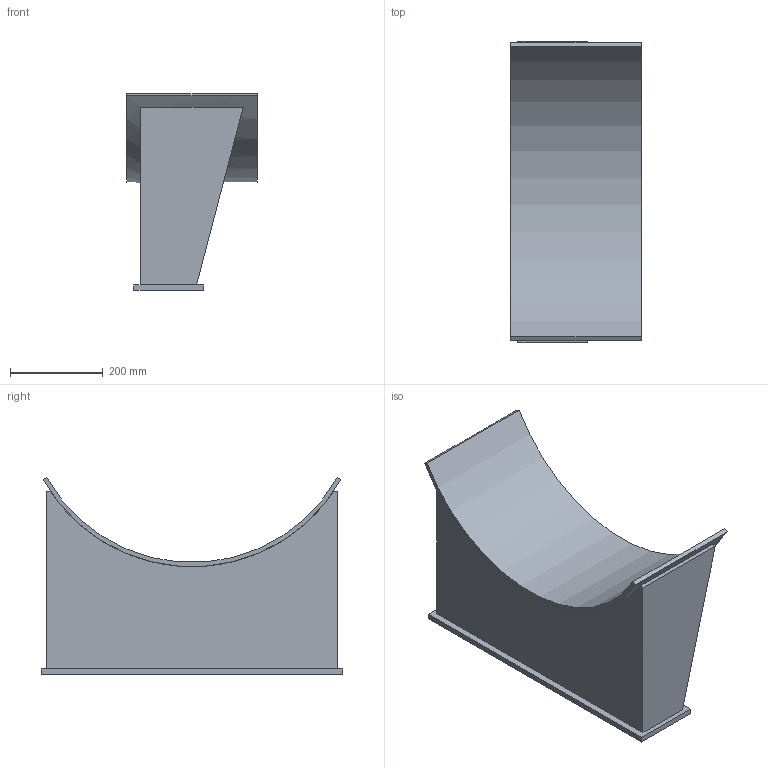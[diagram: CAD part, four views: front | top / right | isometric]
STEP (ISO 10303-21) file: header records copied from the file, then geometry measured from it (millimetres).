
FILE_DESCRIPTION(/* description */ (''),/* implementation_level */ '2;1');
FILE_NAME(/* name */ 'C:\Users\D\Documents\Inventor\HP\JPI\横置きタンクサドル\重荷重用\hc-saddle-hl_700.stp',/* time_stamp */ '2026-01-27T18:46:31+09:00',/* author */ ('D'),/* organization */ (''),/* preprocessor_version */ 'ST-DEVELOPER v18',/* originating_system */ 'Autodesk Inventor 2020',/* authorisation */ '');
FILE_SCHEMA (('AUTOMOTIVE_DESIGN { 1 0 10303 214 3 1 1 }'));
Length unit declared in the file: millimetre
Products named in the file (1): 200A
Bounding box: 280 x 650 x 424.02 mm (x, y, z)
Volume: 5743737.7 mm3; surface area: 1248236 mm2
Topology: 1 solids, 1 shells, 24 faces, 60 edges, 40 vertices
Faces by surface type: plane 20, cylinder 4
Full cylindrical faces by diameter (mm): 19 x2
Entity records: 779 total; most frequent: CARTESIAN_POINT 127, ORIENTED_EDGE 124, DIRECTION 124, EDGE_CURVE 62, LINE 50, VECTOR 50, VERTEX_POINT 40, AXIS2_PLACEMENT_3D 37
